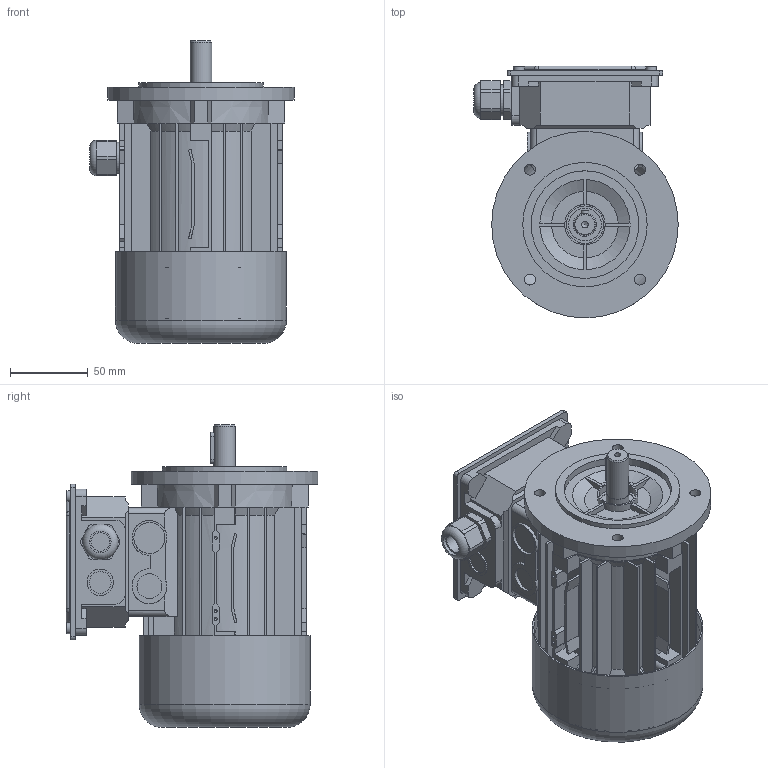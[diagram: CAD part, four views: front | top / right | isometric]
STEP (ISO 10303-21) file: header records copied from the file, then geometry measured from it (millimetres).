
FILE_DESCRIPTION(/* description */ (''),/* implementation_level */ '2;1');
FILE_NAME(/* name */ 'C:\Users\Public\Documents\Autodesk\Inventor LT 2014\Workspace\Componenti_ecoPM\1 - ECO5_56 (TG3)\ECO5_56x_xxA2_xx.stp',/* time_stamp */ '2021-07-28T15:36:29+02:00',/* author */ ('marcor'),/* organization */ (''),/* preprocessor_version */ 'ST-DEVELOPER v15.2',/* originating_system */ 'Autodesk Inventor LT ',/* authorisation */ '');
FILE_SCHEMA (('AUTOMOTIVE_DESIGN { 1 0 10303 214 3 1 1 }'));
Length unit declared in the file: millimetre
Products named in the file (1): ECO5_56x_xxA2_xx_FULL
Bounding box: 131.5 x 162 x 194.75 mm (x, y, z)
Volume: 1280734.3 mm3; surface area: 214567.2 mm2
Topology: 1 solids, 9 shells, 642 faces, 1751 edges, 1148 vertices
Faces by surface type: plane 402, cylinder 163, cone 65, bspline 8, torus 4
Full cylindrical faces by diameter (mm): 2 x3, 3.2 x8, 4.134 x1, 7 x12, 12 x1, 13.95 x2, 14 x2, 14.98 x1, 16 x2, 17 x2, 18 x1, 20 x4, 21 x1, 24 x1, 26 x1, 26.3 x1, 69.2 x1, 75 x1, 78 x1, 80 x1, 84 x1, 84.8 x1, 107.9 x1, 108.6 x1, 110 x1, 115.5 x1, 120 x1
Entity records: 19864 total; most frequent: CARTESIAN_POINT 4089, ORIENTED_EDGE 3276, DIRECTION 3224, EDGE_CURVE 1638, VERTEX_POINT 1116, AXIS2_PLACEMENT_3D 1091, LINE 1042, VECTOR 1042
